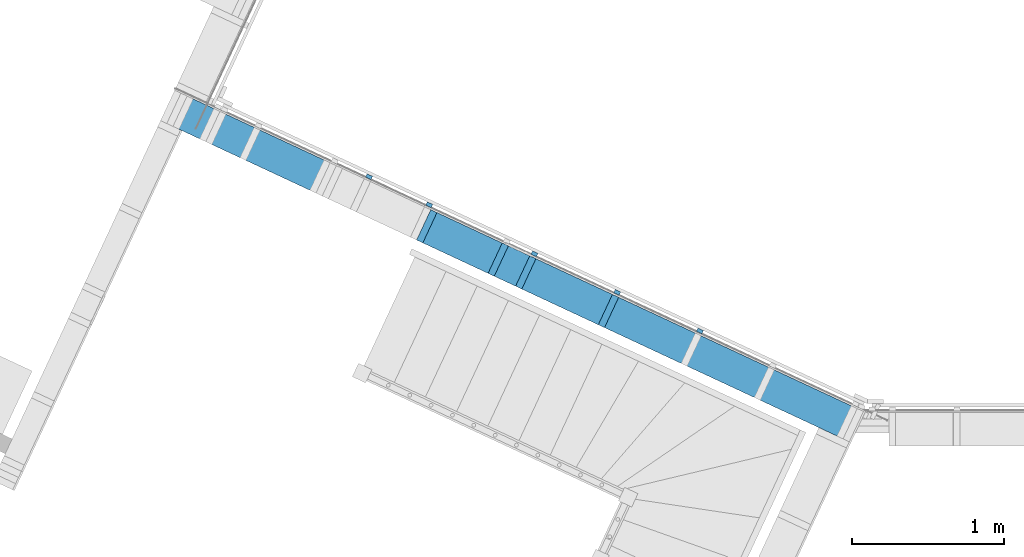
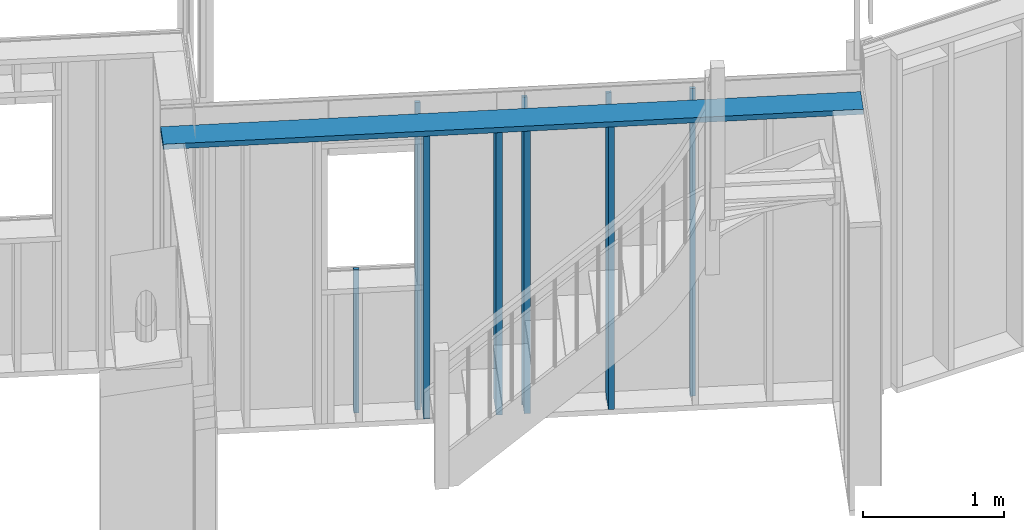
# One storey, part 12 of 34: 10 members.
"""IFC2X3 building model written with IfcOpenShell, lengths in metres."""

from ifc_helpers import new_model, si_unit, direction, frame, origin_with_axes, place, context, subcontext, project, spatial, faceted_brep, material, element, save


model = new_model("IFC2X3")

# Units and contexts
model_context = context("Model", 3, precision=1e-06, world=origin_with_axes(), true_north=direction((0.0, 1.0, 0.0)))
body_context = subcontext(model_context, "Body", "Model", "MODEL_VIEW")
ifc_project = project(units=[si_unit("LENGTHUNIT", "METRE"), si_unit("AREAUNIT", "SQUARE_METRE"), si_unit("VOLUMEUNIT", "CUBIC_METRE"), si_unit("PLANEANGLEUNIT", "RADIAN")], contexts=[model_context])

# Site, building, storey
site_placement = place(None, origin_with_axes())
site = spatial("IfcSite", under=ifc_project, at=site_placement, CompositionType="ELEMENT")
building_placement = place(site_placement, origin_with_axes())
building = spatial("IfcBuilding", under=site, at=building_placement, Name="Building 1", CompositionType="ELEMENT")
storey_placement = place(building_placement, origin_with_axes())
storey = spatial("IfcBuildingStorey", under=building, at=storey_placement, Name="Rez de chaussée", CompositionType="ELEMENT", Elevation=0.0)

# Members
ifc_material = material(Name="Epicéa C24")
for number, where, z_axis, x_axis, name in (
    (1, (13.0749704, 4.9700719, 2.675), (0.4226183, 0.9063078, 0.0), (0.0, 0.0, -1.0), "latte 27/40"),
    (2, (14.1625397, 4.46293, 2.675), (0.4226183, 0.9063078, 0.0), (0.0, 0.0, -1.0), "latte 27/40"),
    (3, (13.618755, 4.716501, 2.675), (0.4226183, 0.9063078, 0.0), (0.0, 0.0, -1.0), "latte 27/40"),
):
    element("IfcMember", number, at=place(storey_placement, frame(where, z_axis=z_axis, x_axis=x_axis)), inside=storey, material=ifc_material, Name=name, context=body_context, shape_type="Brep", body=[
        faceted_brep([(0.0, -0.02, 0.012), (0.0, -0.02, -0.012), (2.67, -0.02, -0.012), (2.67, -0.02, 0.012), (0.0, 0.02, -0.012), (2.67, 0.02, -0.012), (0.0, 0.02, 0.012), (2.67, 0.02, 0.012)], [[[0, 1, 2, 3]], [[1, 4, 5, 2]], [[4, 6, 7, 5]], [[6, 0, 3, 7]], [[0, 6, 4, 1]], [[7, 3, 2, 5]]]),
    ])
for number, where, z_axis, x_axis, name in (
    (4, (13.5617016, 4.5941494, 2.54), (0.4226183, 0.9063078, 0.0), (0.0, 0.0, -1.0), "Montant"),
    (5, (13.0179169, 4.8477204, 2.54), (0.4226183, 0.9063078, 0.0), (0.0, 0.0, -1.0), "Montant"),
):
    element("IfcMember", number, at=place(storey_placement, frame(where, z_axis=z_axis, x_axis=x_axis)), inside=storey, material=ifc_material, Name=name, context=body_context, shape_type="Brep", body=[
        faceted_brep([(0.0, 0.0225, 0.11), (0.0, -0.0225, 0.11), (2.45, -0.0225, 0.11), (2.45, 0.0225, 0.11), (2.45, -0.0225, -0.11), (2.45, 0.0225, -0.11), (0.0, -0.0225, -0.11), (0.0, 0.0225, -0.11)], [[[0, 1, 2, 3]], [[4, 5, 3, 2]], [[4, 2, 1, 6]], [[5, 4, 6, 7]], [[3, 5, 7, 0]], [[1, 0, 7, 6]]]),
    ])
member_1_placement = place(storey_placement, frame((11.987401, 5.4772138, 1.252), z_axis=(0.4226183, 0.9063078, 0.0), x_axis=(0.0, 0.0, -1.0)))
element("IfcMember", 6, at=member_1_placement, inside=storey, material=ifc_material, Name="latte 27/40", context=body_context, shape_type="Brep", body=[
    faceted_brep([(1.247, 0.02, 0.012), (1.247, -0.02, 0.012), (1.247, -0.02, -0.012), (1.247, 0.02, -0.012), (0.0, -0.02, -0.012), (0.0, 0.02, -0.012), (0.0, -0.02, 0.012), (0.0, 0.02, 0.012)], [[[0, 1, 2, 3]], [[4, 5, 3, 2]], [[6, 4, 2, 1]], [[5, 7, 0, 3]], [[7, 6, 1, 0]], [[5, 4, 6, 7]]]),
])
member_2_placement = place(storey_placement, frame((15.191243, 3.8342818, 2.5625), z_axis=(-0.4226183, -0.9063078, 0.0), x_axis=(-0.9063078, 0.4226183, 0.0)))
element("IfcMember", 7, at=member_2_placement, inside=storey, material=ifc_material, Name="Montant", context=body_context, shape_type="Brep", body=[
    faceted_brep([(0.0, 0.0225, -0.11), (4.995806, 0.0225, -0.11), (4.995806, -0.0225, -0.11), (0.0, -0.0225, -0.11), (4.995806, -0.0225, 0.11), (0.0, -0.0225, 0.11), (4.995806, 0.0225, 0.11), (0.0, 0.0225, 0.11)], [[[0, 1, 2, 3]], [[4, 5, 3, 2]], [[6, 4, 2, 1]], [[7, 0, 3, 5]], [[6, 7, 5, 4]], [[1, 0, 7, 6]]]),
])
member_3_placement = place(storey_placement, frame((12.3671897, 5.1511594, 2.54), z_axis=(0.4226183, 0.9063078, 0.0), x_axis=(0.0, 0.0, -1.0)))
element("IfcMember", 8, at=member_3_placement, inside=storey, material=ifc_material, Name="Montant", context=body_context, shape_type="Brep", body=[
    faceted_brep([(0.0, 0.0225, 0.11), (0.0, -0.0225, 0.11), (2.45, -0.0225, 0.11), (2.45, 0.0225, 0.11), (2.45, -0.0225, -0.11), (2.45, 0.0225, -0.11), (0.0, -0.0225, -0.11), (0.0, 0.0225, -0.11)], [[[0, 1, 2, 3]], [[4, 5, 3, 2]], [[4, 2, 1, 6]], [[5, 4, 6, 7]], [[3, 5, 7, 0]], [[1, 0, 7, 6]]]),
])
member_4_placement = place(storey_placement, frame((12.3834594, 5.2925288, 2.675), z_axis=(0.4226183, 0.9063078, 0.0), x_axis=(0.0, 0.0, -1.0)))
element("IfcMember", 9, at=member_4_placement, inside=storey, material=ifc_material, Name="latte 27/40", context=body_context, shape_type="Brep", body=[
    faceted_brep([(0.0, -0.02, 0.012), (0.0, -0.02, -0.012), (2.67, -0.02, -0.012), (2.67, -0.02, 0.012), (0.0, 0.02, -0.012), (2.67, 0.02, -0.012), (0.0, 0.02, 0.012), (2.67, 0.02, 0.012)], [[[0, 1, 2, 3]], [[1, 4, 5, 2]], [[4, 6, 7, 5]], [[6, 0, 3, 7]], [[0, 6, 4, 1]], [[7, 3, 2, 5]]]),
])
member_5_placement = place(storey_placement, frame((12.8368312, 4.932162, 2.54), z_axis=(0.4226183, 0.9063078, 0.0), x_axis=(0.0, 0.0, -1.0)))
element("IfcMember", 10, at=member_5_placement, inside=storey, material=ifc_material, Name="Montant", context=body_context, shape_type="Brep", body=[
    faceted_brep([(0.0, 0.0225, 0.11), (0.0, -0.0225, 0.11), (2.45, -0.0225, 0.11), (2.45, 0.0225, 0.11), (2.45, -0.0225, -0.11), (2.45, 0.0225, -0.11), (0.0, -0.0225, -0.11), (0.0, 0.0225, -0.11)], [[[0, 1, 2, 3]], [[4, 5, 3, 2]], [[4, 2, 1, 6]], [[5, 4, 6, 7]], [[3, 5, 7, 0]], [[1, 0, 7, 6]]]),
])

save(model, "model.ifc")
